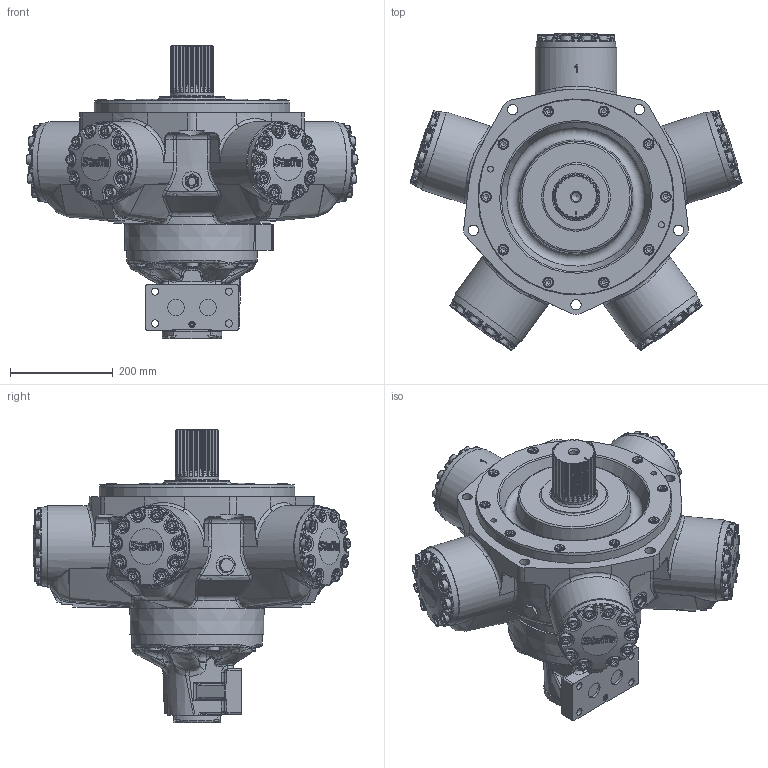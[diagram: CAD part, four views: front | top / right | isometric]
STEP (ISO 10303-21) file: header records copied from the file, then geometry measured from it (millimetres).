
FILE_DESCRIPTION(/* description */ (''),/* implementation_level */ '2;1');
FILE_NAME(/* name */ 'HMC200_Z3_SM3_X_70.stp',/* time_stamp */ '2025-10-14T12:02:27+01:00',/* author */ ('ccallanga'),/* organization */ (''),/* preprocessor_version */ 'ST-DEVELOPER v20',/* originating_system */ 'Autodesk Inventor 2024',/* authorisation */ '');
FILE_SCHEMA (('AUTOMOTIVE_DESIGN { 1 0 10303 214 3 1 1 }'));
Products named in the file (1): 017751 HMC200 Web Assembly_Simplify_1
Bounding box: 645.1 x 616.02 x 569.42 mm (x, y, z)
Volume: 46624474 mm3; surface area: 1219760.6 mm2
Topology: 1 solids, 1 shells, 4789 faces, 11808 edges, 7035 vertices
Faces by surface type: bspline 1820, plane 1273, cylinder 1014, torus 405, cone 162, sphere 115
Full cylindrical faces by diameter (mm): 2.2 x4, 9.4 x1, 11.328 x2, 11.445 x2, 11.913 x4, 12 x1, 12.7 x4, 14 x4, 16.51 x1, 17.323 x1, 19.05 x60, 20 x9, 20.637 x60, 23.825 x5, 25.4 x5, 26.92 x2, 32 x2, 38.1 x3, 68.58 x1, 84.4 x1, 88.837 x1, 92.964 x1, 127 x1, 254 x1, 380.91 x1
Entity records: 226594 total; most frequent: CARTESIAN_POINT 122801, ORIENTED_EDGE 23162, DIRECTION 16460, EDGE_CURVE 11581, VERTEX_POINT 7035, AXIS2_PLACEMENT_3D 6460, EDGE_LOOP 5048, STYLED_ITEM 4790
